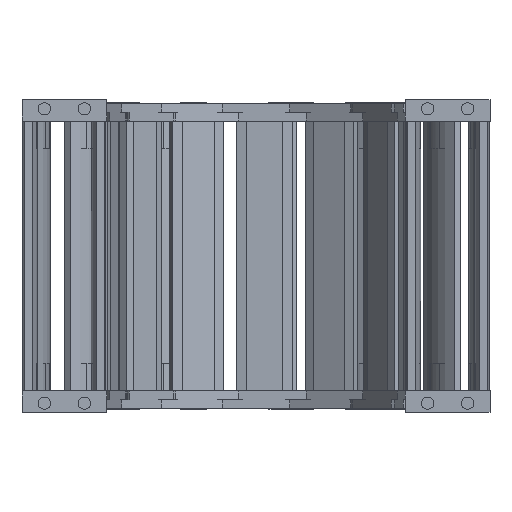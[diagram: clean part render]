
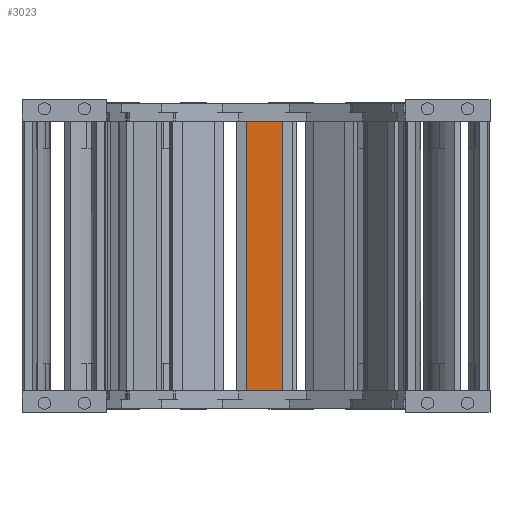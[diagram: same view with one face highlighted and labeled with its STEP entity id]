
A CAD part, left-side view. The second image highlights one B-rep face of the part: STEP entity #3023.
In plain terms, the highlighted planar face has unit normal (-0.999, 0.054, 0) as drawn and (0, 1, 0) by its records, which use the part's own axes.
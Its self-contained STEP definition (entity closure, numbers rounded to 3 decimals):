
#2766=DIRECTION('',(1.,0.,0.));
#2767=VECTOR('',#2766,23.);
#2768=CARTESIAN_POINT('',(-11.5,3.,162.9));
#2769=LINE('',#2768,#2767);
#2815=DIRECTION('',(0.,0.,-1.));
#2816=VECTOR('',#2815,175.4);
#2817=CARTESIAN_POINT('',(11.5,3.,162.9));
#2818=LINE('',#2817,#2816);
#2837=DIRECTION('',(-1.,0.,0.));
#2838=VECTOR('',#2837,23.);
#2839=CARTESIAN_POINT('',(11.5,3.,-12.5));
#2840=LINE('',#2839,#2838);
#2851=DIRECTION('',(0.,0.,-1.));
#2852=VECTOR('',#2851,175.4);
#2853=CARTESIAN_POINT('',(-11.5,3.,162.9));
#2854=LINE('',#2853,#2852);
#2878=CARTESIAN_POINT('',(11.5,3.,162.9));
#2879=VERTEX_POINT('',#2878);
#2882=CARTESIAN_POINT('',(-11.5,3.,162.9));
#2883=VERTEX_POINT('',#2882);
#2890=CARTESIAN_POINT('',(11.5,3.,-12.5));
#2891=VERTEX_POINT('',#2890);
#2892=CARTESIAN_POINT('',(-11.5,3.,-12.5));
#2893=VERTEX_POINT('',#2892);
#3011=CARTESIAN_POINT('',(15.5,3.,112.9));
#3012=DIRECTION('',(0.,1.,0.));
#3013=DIRECTION('',(-1.,0.,0.));
#3014=AXIS2_PLACEMENT_3D('',#3011,#3012,#3013);
#3015=PLANE('',#3014);
#3017=ORIENTED_EDGE('',*,*,#3016,.T.);
#3018=ORIENTED_EDGE('',*,*,#2995,.F.);
#3019=ORIENTED_EDGE('',*,*,#2975,.F.);
#3020=ORIENTED_EDGE('',*,*,#2907,.F.);
#3021=EDGE_LOOP('',(#3017,#3018,#3019,#3020));
#3022=FACE_OUTER_BOUND('',#3021,.F.);
#3023=ADVANCED_FACE('',(#3022),#3015,.T.);
#2907=EDGE_CURVE('',#2883,#2879,#2769,.T.);
#2975=EDGE_CURVE('',#2879,#2891,#2818,.T.);
#2995=EDGE_CURVE('',#2891,#2893,#2840,.T.);
#3016=EDGE_CURVE('',#2883,#2893,#2854,.T.);
